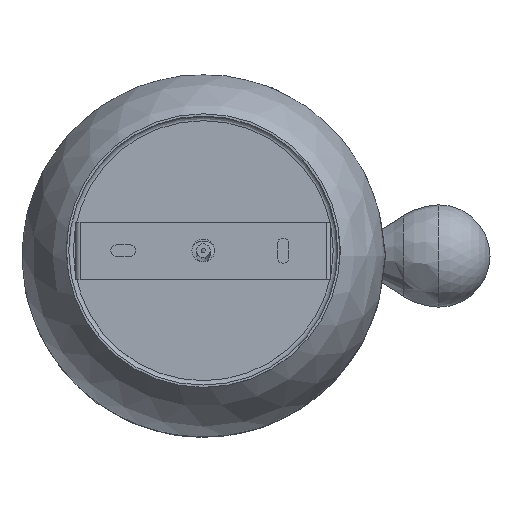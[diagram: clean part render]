
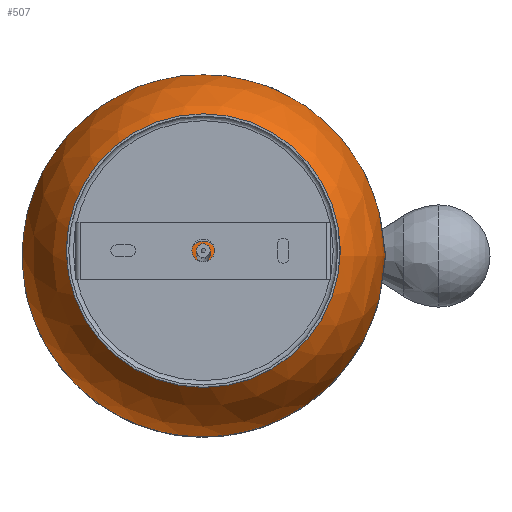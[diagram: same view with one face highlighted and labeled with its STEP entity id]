
A CAD part, top view. The second image highlights one B-rep face of the part: STEP entity #507.
In plain terms, the highlighted spherical face has radius 80 mm.
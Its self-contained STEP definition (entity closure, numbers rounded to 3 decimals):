
#507 = ADVANCED_FACE( '', ( #905 ), #906, .T. );
#905 = FACE_OUTER_BOUND( '', #1387, .T. );
#906 = SPHERICAL_SURFACE( '', #1388, 80. );
#1387 = EDGE_LOOP( '', ( #2234 ) );
#1388 = AXIS2_PLACEMENT_3D( '', #2235, #2236, #2237 );
#2234 = ORIENTED_EDGE( '', *, *, #2730, .T. );
#2235 = CARTESIAN_POINT( '', ( 0., 0., 75. ) );
#2236 = DIRECTION( '', ( 0., 0., -1. ) );
#2237 = DIRECTION( '', ( 1., 0., 0. ) );
#2730 = EDGE_CURVE( '', #3190, #3190, #3191, .T. );
#3190 = VERTEX_POINT( '', #4136 );
#3191 = CIRCLE( '', #4137, 36.098 );
#4136 = CARTESIAN_POINT( '', ( 36.098, 0., 3.607 ) );
#4137 = AXIS2_PLACEMENT_3D( '', #4707, #4708, #4709 );
#4707 = CARTESIAN_POINT( '', ( 0., 0., 3.607 ) );
#4708 = DIRECTION( '', ( 0., 0., 1. ) );
#4709 = DIRECTION( '', ( 1., 0., 0. ) );
